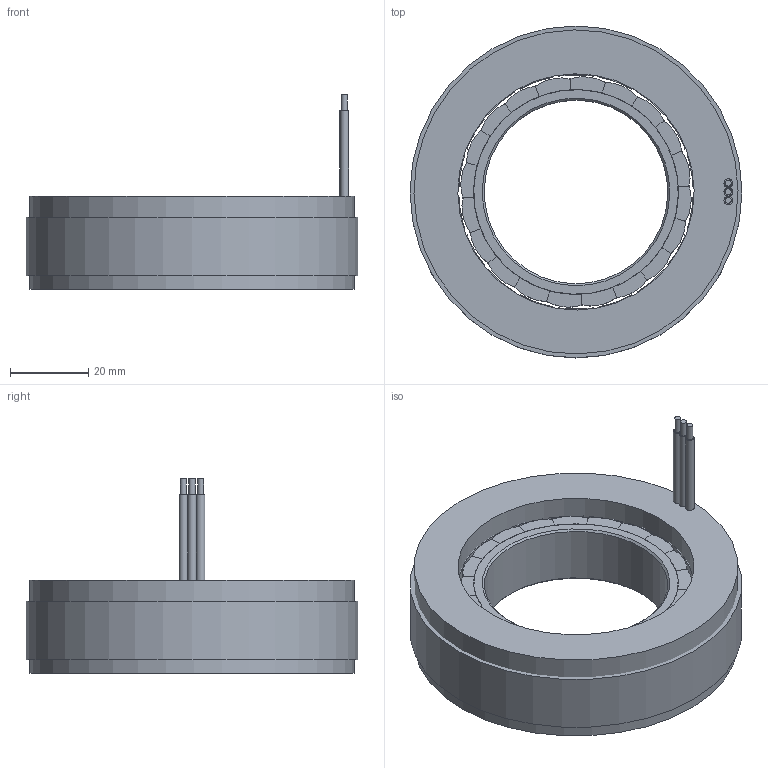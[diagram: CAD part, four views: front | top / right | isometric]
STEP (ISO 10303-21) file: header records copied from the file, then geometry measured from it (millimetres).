
FILE_DESCRIPTION (( 'STEP AP214' ), '1' );
FILE_NAME ('8513萇儂.STEP', '2024-01-17T03:49:36', ( '' ), ( '' ), 'SwSTEP 2.0', 'SolidWorks 2022', '' );
FILE_SCHEMA (( 'AUTOMOTIVE_DESIGN' ));
Length unit declared in the file: millimetre
Products named in the file (1): 8513萇儂
Bounding box: 85 x 85 x 49.8 mm (x, y, z)
Volume: 108206.2 mm3; surface area: 61898.1 mm2
Topology: 44 solids, 44 shells, 662 faces, 1705 edges, 1137 vertices
Faces by surface type: plane 386, cylinder 274, cone 2
Full cylindrical faces by diameter (mm): 1.55 x6, 2.2 x3, 47 x1, 52.4 x1, 60.5 x1, 83 x1, 85 x1
Entity records: 27927 total; most frequent: DIRECTION 3562, CARTESIAN_POINT 3483, ORIENTED_EDGE 3372, EDGE_CURVE 1686, AXIS2_PLACEMENT_3D 1213, LINE 1136, VECTOR 1136, VERTEX_POINT 1134
